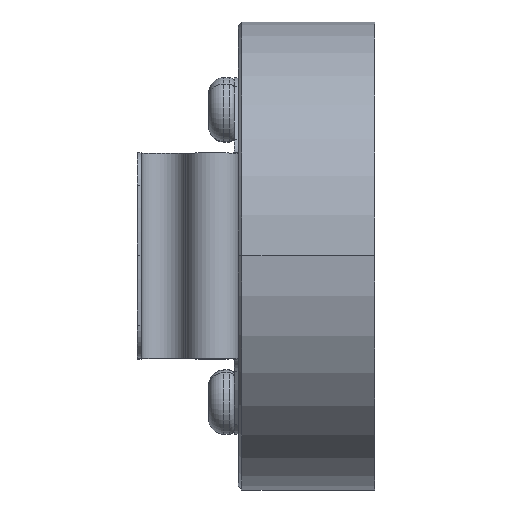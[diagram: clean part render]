
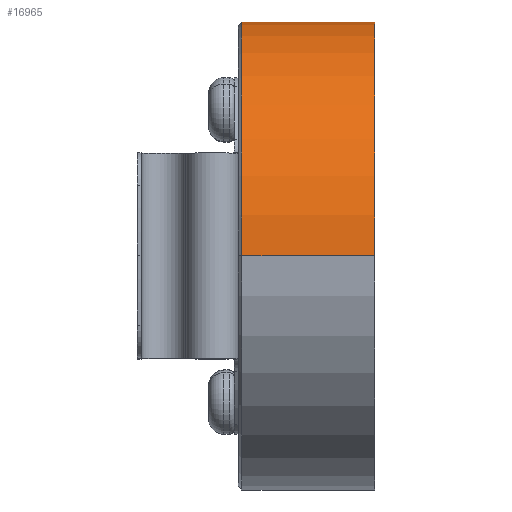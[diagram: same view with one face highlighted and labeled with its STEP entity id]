
A CAD part, top view. The second image highlights one B-rep face of the part: STEP entity #16965.
In plain terms, the highlighted cylindrical face has radius 18.25 mm (diameter 36.5 mm), a partial arc.
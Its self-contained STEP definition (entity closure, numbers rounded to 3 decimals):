
#729 = ORIENTED_EDGE ( 'NONE', *, *, #3111, .F. ) ;
#871 = EDGE_LOOP ( 'NONE', ( #5510, #4843, #7214, #729 ) ) ;
#2305 = CARTESIAN_POINT ( 'NONE',  ( -1000., 0., 18.25 ) ) ;
#2469 = DIRECTION ( 'NONE',  ( 0., 0., 1. ) ) ;
#3111 = EDGE_CURVE ( 'NONE', #9355, #10296, #4458, .T. ) ;
#3517 = EDGE_CURVE ( 'NONE', #5936, #10296, #18343, .T. ) ;
#3613 = FACE_OUTER_BOUND ( 'NONE', #871, .T. ) ;
#4458 = LINE ( 'NONE', #2305, #15391 ) ;
#4843 = ORIENTED_EDGE ( 'NONE', *, *, #9177, .T. ) ;
#5289 = DIRECTION ( 'NONE',  ( 1., 0., 0. ) ) ;
#5510 = ORIENTED_EDGE ( 'NONE', *, *, #10110, .T. ) ;
#5936 = VERTEX_POINT ( 'NONE', #10286 ) ;
#6004 = CARTESIAN_POINT ( 'NONE',  ( -1.3, 0., 0. ) ) ;
#6677 = AXIS2_PLACEMENT_3D ( 'NONE', #18411, #5289, #8193 ) ;
#7214 = ORIENTED_EDGE ( 'NONE', *, *, #3517, .T. ) ;
#7254 = DIRECTION ( 'NONE',  ( 0., 0., 1. ) ) ;
#8124 = CIRCLE ( 'NONE', #14627, 18.25 ) ;
#8193 = DIRECTION ( 'NONE',  ( 0., 0., 1. ) ) ;
#8253 = CARTESIAN_POINT ( 'NONE',  ( -1000., 0., 0. ) ) ;
#9177 = EDGE_CURVE ( 'NONE', #15805, #5936, #13770, .T. ) ;
#9355 = VERTEX_POINT ( 'NONE', #17171 ) ;
#9903 = DIRECTION ( 'NONE',  ( -1., 0., 0. ) ) ;
#9983 = VECTOR ( 'NONE', #9903, 1000. ) ;
#10110 = EDGE_CURVE ( 'NONE', #9355, #15805, #8124, .T. ) ;
#10286 = CARTESIAN_POINT ( 'NONE',  ( -11.65, 0., -18.25 ) ) ;
#10296 = VERTEX_POINT ( 'NONE', #13675 ) ;
#11659 = AXIS2_PLACEMENT_3D ( 'NONE', #8253, #18210, #2469 ) ;
#12352 = DIRECTION ( 'NONE',  ( -1., 0., 0. ) ) ;
#13675 = CARTESIAN_POINT ( 'NONE',  ( -11.65, 0., 18.25 ) ) ;
#13770 = LINE ( 'NONE', #16969, #9983 ) ;
#13911 = CARTESIAN_POINT ( 'NONE',  ( -1.3, 0., -18.25 ) ) ;
#14627 = AXIS2_PLACEMENT_3D ( 'NONE', #6004, #15828, #7254 ) ;
#15391 = VECTOR ( 'NONE', #12352, 1000. ) ;
#15805 = VERTEX_POINT ( 'NONE', #13911 ) ;
#15828 = DIRECTION ( 'NONE',  ( -1., 0., 0. ) ) ;
#16965 = ADVANCED_FACE ( 'NONE', ( #3613 ), #18429, .T. ) ;
#16969 = CARTESIAN_POINT ( 'NONE',  ( -1000., 0., -18.25 ) ) ;
#17171 = CARTESIAN_POINT ( 'NONE',  ( -1.3, 0., 18.25 ) ) ;
#18210 = DIRECTION ( 'NONE',  ( -1., 0., 0. ) ) ;
#18343 = CIRCLE ( 'NONE', #6677, 18.25 ) ;
#18411 = CARTESIAN_POINT ( 'NONE',  ( -11.65, 0., 0. ) ) ;
#18429 = CYLINDRICAL_SURFACE ( 'NONE', #11659, 18.25 ) ;
